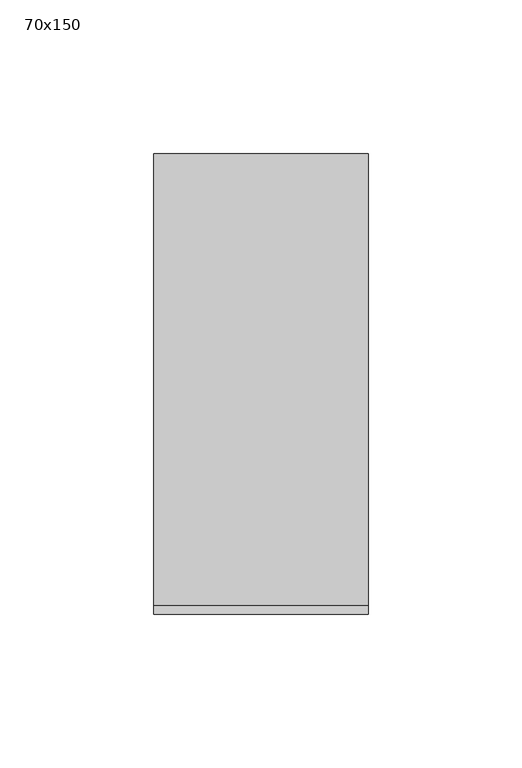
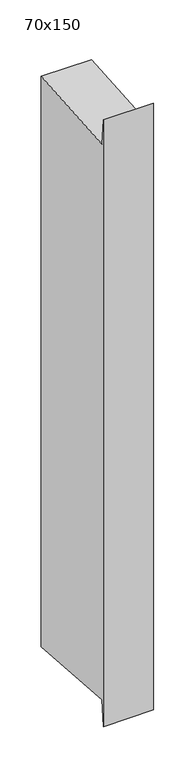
"""IFC4 building model written with IfcOpenShell, lengths in millimetres: member geometry, 長方形のマリオン : 70x150."""

from ifc_helpers import new_model, si_unit, frame, origin, place, context, project, spatial, polyline, outline, extrude, source, transform, mapped, element, save


def member_70x150_de2330a6(model_context):
    return source(origin(), model_context, "Body", "SweptSolid", [
        extrude(outline(polyline([(-75.0, 32.2404626), (-72.2251205, -5.4169763), (75.0, 5.431663), (75.0, -835.431663), (-72.2251205, -824.5830237), (-75.0, -862.2404626), (-75.0, 32.2404626)])), frame((-70.0, 0.0, 0.0), z_axis=(1.0, 0.0, 0.0), x_axis=(0.0, 1.0, 0.0)), (0.0, 0.0, 1.0), 70.0),
    ])


if __name__ == "__main__":
    model = new_model("IFC4")
    model_context = context("Model", 3, world=origin())
    ifc_project = project(units=[si_unit("LENGTHUNIT", "METRE", prefix="MILLI")], contexts=[model_context])
    site = spatial("IfcSite", under=ifc_project)
    building = spatial("IfcBuilding", under=site)
    placement = place(None, origin())
    member_70x150_shape = member_70x150_de2330a6(model_context)
    element("IfcMember", 1, ObjectType="長方形のマリオン : 70x150", at=placement, inside=building, context=model_context, shape_type="MappedRepresentation", body=[
        mapped(member_70x150_shape, transform((0.0, 0.0, 0.0), x_axis=(1.0, 0.0, 0.0), y_axis=(0.0, 1.0, 0.0), z_axis=(0.0, 0.0, 1.0))),
    ])
    save(model, "model.ifc")
